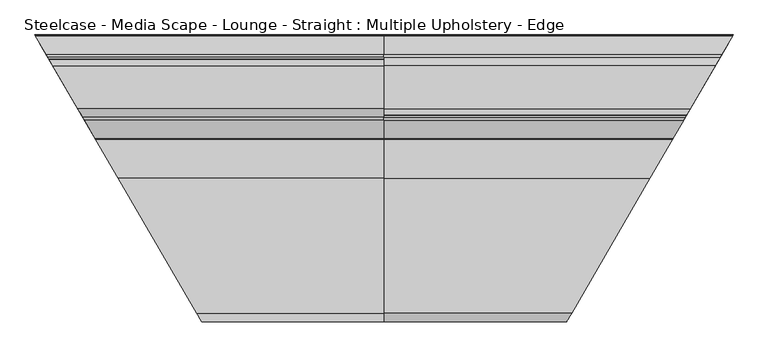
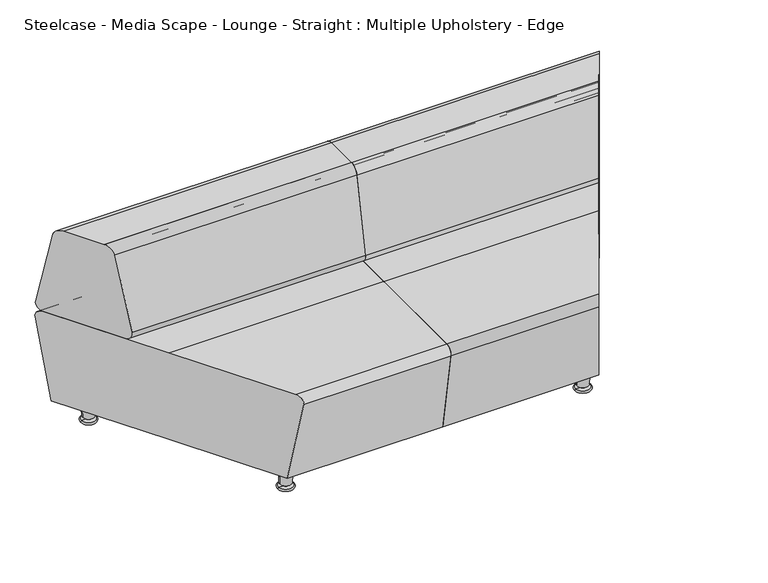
"""IFC4 building model written with IfcOpenShell, lengths in millimetres: furniture geometry, Steelcase - Media Scape - Lounge - Straight : Multiple Upholstery - Edge."""

from ifc_helpers import new_model, si_unit, point, frame, origin, place, context, project, spatial, polyline, circle_curve, ellipse_curve, trimmed, source, transform, mapped, element, save
from ifc_brep_helpers import plane_surface, cylinder_surface, revolved_surface, advanced_brep


def steelcase_media_scape_lounge_straight_multiple_upholstery_88f133c7(model_context):
    return source(origin(), model_context, "Body", "AdvancedBrep", [
        advanced_brep(
        [(528.9638527, 744.618392, 735.1171206), (528.9638527, 619.0683436, 735.1171206), (528.9638527, 585.640659, 707.6422134), (528.9638527, 531.7822003, 434.7626426), (528.9638527, 556.7014693, 404.4443065), (528.9638527, 806.9852663, 404.4443065), (528.9638527, 831.9045354, 434.7626426), (528.9638527, 778.0460766, 707.6422134), (-452.3869175, 778.0460766, 707.6422134), (-432.9507329, 744.618392, 735.1171206), (-483.7023664, 831.9045354, 434.7626426), (-469.2133128, 806.9852663, 404.4443065), (-323.688364, 556.7014693, 404.4443065), (-309.1993104, 531.7822003, 434.7626426), (-340.5147593, 585.640659, 707.6422134), (-359.950944, 619.0683436, 735.1171206)],
        [
            (0, 1),
            (1, 2, circle_curve(frame((528.9638527, 619.0683436, 701.0445646), z_axis=(1.0, 0.0, 0.0), x_axis=(0.0, -1.0, 0.0)), 34.0725559)),
            (2, 3),
            (3, 4, circle_curve(frame((528.9638527, 556.7014693, 429.8443065), z_axis=(1.0, 0.0, 0.0), x_axis=(0.0, -1.0, 0.0)), 25.4)),
            (4, 5),
            (5, 6, circle_curve(frame((528.9638527, 806.9852663, 429.8443065), z_axis=(1.0, 0.0, 0.0), x_axis=(0.0, 1.0, 0.0)), 25.4)),
            (6, 7),
            (7, 0, circle_curve(frame((528.9638527, 744.618392, 701.0445646), z_axis=(1.0, 0.0, 0.0), x_axis=(0.0, 1.0, 0.0)), 34.0725559)),
            (7, 8),
            (8, 9, ellipse_curve(frame((-432.9507329, 744.618392, 701.0445646), z_axis=(0.8644905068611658, 0.5026491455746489, 0.0), x_axis=(-0.5026491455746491, 0.8644905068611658, 0.0)), 39.413453, 34.0725559)),
            (9, 0),
            (6, 10),
            (10, 8),
            (5, 11),
            (11, 10, ellipse_curve(frame((-469.2133128, 806.9852663, 429.8443065), z_axis=(0.8644905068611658, 0.5026491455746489, 0.0), x_axis=(-0.5026491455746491, 0.8644905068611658, 0.0)), 29.3814678, 25.4)),
            (4, 12),
            (12, 11),
            (3, 13),
            (13, 12, ellipse_curve(frame((-323.688364, 556.7014693, 429.8443065), z_axis=(0.8644905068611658, 0.5026491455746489, 0.0), x_axis=(-0.502649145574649, 0.8644905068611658, 0.0)), 29.3814678, 25.4)),
            (2, 14),
            (14, 13),
            (1, 15),
            (15, 14, ellipse_curve(frame((-359.950944, 619.0683436, 701.0445646), z_axis=(0.8644905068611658, 0.5026491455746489, 0.0), x_axis=(-0.502649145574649, 0.8644905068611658, 0.0)), 39.413453, 34.0725559)),
            (9, 15),
        ],
        [
            plane_surface(frame((528.9638527, 778.690948, 701.0445646), z_axis=(1.0, 0.0, 0.0), x_axis=(0.0, 0.0, 1.0))),
            cylinder_surface(frame((528.9638527, 744.618392, 701.0445646), z_axis=(-1.0, 0.0, 0.0), x_axis=(0.0, 1.0, 0.0)), 34.0725559),
            plane_surface(frame((-497.7585178, 778.0460766, 707.6422134), z_axis=(0.0, 0.9810735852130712, 0.19363527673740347), x_axis=(1.0, 0.0, 0.0))),
            cylinder_surface(frame((528.9638527, 806.9852663, 429.8443065), z_axis=(-1.0, 0.0, 0.0), x_axis=(0.0, 1.0, 0.0)), 25.4),
            plane_surface(frame((-497.7585178, 806.9852663, 404.4443065), z_axis=(0.0, 0.0, -1.0), x_axis=(1.0, 0.0, 0.0))),
            cylinder_surface(frame((528.9638527, 556.7014693, 429.8443065), z_axis=(-1.0, 0.0, 0.0), x_axis=(0.0, -1.0, 0.0)), 25.4),
            plane_surface(frame((-497.7585178, 531.7822003, 434.7626426), z_axis=(0.0, -0.9810735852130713, 0.1936352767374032), x_axis=(1.0, 0.0, 0.0))),
            cylinder_surface(frame((528.9638527, 619.0683436, 701.0445646), z_axis=(-1.0, 0.0, 0.0), x_axis=(0.0, -1.0, 0.0)), 34.0725559),
            plane_surface(frame((-497.7585178, 619.0683436, 735.1171206), z_axis=(0.0, 0.0, 1.0), x_axis=(1.0, 0.0, 0.0))),
            plane_surface(frame((22.6450752, -38.9465548, 744.9721396), z_axis=(-0.8644905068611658, -0.5026491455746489, 0.0), x_axis=(0.0, 0.0, -1.0))),
        ],
        [
            (0, [[1, 2, 3, 4, 5, 6, 7, 8]]),
            (1, [[-8, 9, 10, 11]]),
            (2, [[-7, 12, 13, -9]]),
            (3, [[-6, 14, 15, -12]]),
            (4, [[-5, 16, 17, -14]]),
            (5, [[-4, 18, 19, -16]]),
            (6, [[-3, 20, 21, -18]]),
            (7, [[-2, 22, 23, -20]]),
            (8, [[-1, -11, 24, -22]]),
            (9, [[-10, -13, -15, -17, -19, -21, -23, -24]]),
        ],
    ),
        advanced_brep(
        [(528.9638527, 416.9525328, 404.4443065), (528.9638527, 25.4465658, 404.4443065), (528.9638527, 0.4050887, 374.7917281), (528.9638527, 51.3770305, 74.6414242), (528.9638527, 416.9525328, 74.6414242), (528.9638527, 782.5280351, 74.6414242), (528.9638527, 833.4999769, 374.7917281), (528.9638527, 808.4584998, 404.4443065), (-242.4327771, 416.9525328, 404.4443065), (-14.7956449, 25.4465658, 404.4443065), (-0.2355347, 0.4050887, 374.7917281), (-29.8726479, 51.3770305, 74.6414242), (-242.4327771, 416.9525328, 74.6414242), (-454.9929064, 782.5280351, 74.6414242), (-484.6300196, 833.4999769, 374.7917281), (-470.0699093, 808.4584998, 404.4443065)],
        [
            (0, 1),
            (1, 2, circle_curve(frame((528.9638527, 25.4465658, 379.0443065), z_axis=(1.0, 0.0, 0.0), x_axis=(0.0, -1.0, 0.0)), 25.4)),
            (2, 3),
            (3, 4),
            (4, 5),
            (5, 6),
            (6, 7, circle_curve(frame((528.9638527, 808.4584998, 379.0443065), z_axis=(1.0, 0.0, 0.0), x_axis=(0.0, 1.0, 0.0)), 25.4)),
            (7, 0),
            (0, 8),
            (8, 9),
            (9, 1),
            (9, 10, ellipse_curve(frame((-14.7956449, 25.4465658, 379.0443065), z_axis=(0.8644905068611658, 0.5026491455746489, 0.0), x_axis=(0.502649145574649, -0.8644905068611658, 0.0)), 29.3814678, 25.4)),
            (10, 2),
            (10, 11),
            (11, 3),
            (11, 12),
            (12, 4),
            (12, 13),
            (13, 5),
            (13, 14),
            (14, 6),
            (14, 15, ellipse_curve(frame((-470.0699093, 808.4584998, 379.0443065), z_axis=(0.8644905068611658, 0.5026491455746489, 0.0), x_axis=(0.502649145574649, -0.8644905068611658, 0.0)), 29.3814678, 25.4)),
            (15, 7),
            (15, 8),
        ],
        [
            plane_surface(frame((528.9638527, -57.5722485, 404.4443065), z_axis=(1.0, 0.0, 0.0), x_axis=(0.0, -1.0, 0.0))),
            plane_surface(frame((528.9638527, 416.9525328, 404.4443065), z_axis=(0.0, 0.0, 1.0), x_axis=(-1.0, 0.0, 0.0))),
            cylinder_surface(frame((-497.7585178, 25.4465658, 379.0443065), z_axis=(1.0, 0.0, 0.0), x_axis=(0.0, -1.0, 0.0)), 25.4),
            plane_surface(frame((528.9638527, 0.4050887, 374.7917281), z_axis=(0.0, -0.9858849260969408, -0.16742434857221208), x_axis=(-1.0, 0.0, 0.0))),
            plane_surface(frame((528.9638527, 51.3770305, 74.6414242), z_axis=(0.0, 0.0, -1.0), x_axis=(-1.0, 0.0, 0.0))),
            plane_surface(frame((528.9638527, 416.9525328, 74.6414242), z_axis=(0.0, 0.0, -1.0), x_axis=(-1.0, 0.0, 0.0))),
            plane_surface(frame((528.9638527, 782.5280351, 74.6414242), z_axis=(0.0, 0.9858849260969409, -0.1674243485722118), x_axis=(-1.0, 0.0, 0.0))),
            cylinder_surface(frame((-497.7585178, 808.4584998, 379.0443065), z_axis=(1.0, 0.0, 0.0), x_axis=(0.0, 1.0, 0.0)), 25.4),
            plane_surface(frame((528.9638527, 808.4584998, 404.4443065), z_axis=(0.0, 0.0, 1.0), x_axis=(-1.0, 0.0, 0.0))),
            plane_surface(frame((22.6450752, -38.9465548, 744.9721396), z_axis=(-0.8644905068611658, -0.5026491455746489, 0.0), x_axis=(0.0, 0.0, -1.0))),
        ],
        [
            (0, [[1, 2, 3, 4, 5, 6, 7, 8]]),
            (1, [[-1, 9, 10, 11]]),
            (2, [[-2, -11, 12, 13]]),
            (3, [[-3, -13, 14, 15]]),
            (4, [[-4, -15, 16, 17]]),
            (5, [[-5, -17, 18, 19]]),
            (6, [[-6, -19, 20, 21]]),
            (7, [[-7, -21, 22, 23]]),
            (8, [[-8, -23, 24, -9]]),
            (9, [[-10, -24, -22, -20, -18, -16, -14, -12]]),
        ],
    ),
        advanced_brep(
        [(528.9638527, 416.9525328, 404.4443065), (528.9638527, 808.4584998, 404.4443065), (528.9638527, 833.4999769, 374.7917281), (528.9638527, 782.5280351, 74.6414242), (528.9638527, 416.9525328, 74.6414242), (528.9638527, 51.3770305, 74.6414242), (528.9638527, 0.4050887, 374.7917281), (528.9638527, 25.4465658, 404.4443065), (1301.6333208, 416.9525328, 404.4443065), (1528.798605, 808.4584998, 404.4443065), (1543.328535, 833.4999769, 374.7917281), (1513.7528538, 782.5280351, 74.6414242), (1301.6333208, 416.9525328, 74.6414242), (1089.5137878, 51.3770305, 74.6414242), (1059.9381066, 0.4050887, 374.7917281), (1074.4680366, 25.4465658, 404.4443065)],
        [
            (0, 1),
            (1, 2, circle_curve(frame((528.9638527, 808.4584998, 379.0443065), z_axis=(-1.0, 0.0, 0.0), x_axis=(0.0, 1.0, 0.0)), 25.4)),
            (2, 3),
            (3, 4),
            (4, 5),
            (5, 6),
            (6, 7, circle_curve(frame((528.9638527, 25.4465658, 379.0443065), z_axis=(-1.0, 0.0, 0.0), x_axis=(0.0, -1.0, 0.0)), 25.4)),
            (7, 0),
            (0, 8),
            (8, 9),
            (9, 1),
            (9, 10, ellipse_curve(frame((1528.798605, 808.4584998, 379.0443065), z_axis=(-0.8649431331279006, 0.5018698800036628, 0.0), x_axis=(-0.5018698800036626, -0.8649431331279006, 0.0)), 29.3660924, 25.4)),
            (10, 2),
            (10, 11),
            (11, 3),
            (11, 12),
            (12, 4),
            (12, 13),
            (13, 5),
            (13, 14),
            (14, 6),
            (14, 15, ellipse_curve(frame((1074.4680366, 25.4465658, 379.0443065), z_axis=(-0.8649431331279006, 0.5018698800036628, 0.0), x_axis=(-0.5018698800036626, -0.8649431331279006, 0.0)), 29.3660924, 25.4)),
            (15, 7),
            (15, 8),
        ],
        [
            plane_surface(frame((528.9638527, 891.4773142, 404.4443065), z_axis=(-1.0, 0.0, 0.0), x_axis=(0.0, 1.0, 0.0))),
            plane_surface(frame((528.9638527, 416.9525328, 404.4443065), z_axis=(0.0, 0.0, 1.0), x_axis=(1.0, 0.0, 0.0))),
            cylinder_surface(frame((1555.6862231, 808.4584998, 379.0443065), z_axis=(-1.0, 0.0, 0.0), x_axis=(0.0, 1.0, 0.0)), 25.4),
            plane_surface(frame((528.9638527, 833.4999769, 374.7917281), z_axis=(0.0, 0.9858849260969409, -0.1674243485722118), x_axis=(1.0, 0.0, 0.0))),
            plane_surface(frame((528.9638527, 782.5280351, 74.6414242), z_axis=(0.0, 0.0, -1.0), x_axis=(1.0, 0.0, 0.0))),
            plane_surface(frame((528.9638527, 416.9525328, 74.6414242), z_axis=(0.0, 0.0, -1.0), x_axis=(1.0, 0.0, 0.0))),
            plane_surface(frame((528.9638527, 51.3770305, 74.6414242), z_axis=(0.0, -0.9858849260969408, -0.16742434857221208), x_axis=(1.0, 0.0, 0.0))),
            cylinder_surface(frame((1555.6862231, 25.4465658, 379.0443065), z_axis=(-1.0, 0.0, 0.0), x_axis=(0.0, -1.0, 0.0)), 25.4),
            plane_surface(frame((528.9638527, 25.4465658, 404.4443065), z_axis=(0.0, 0.0, 1.0), x_axis=(1.0, 0.0, 0.0))),
            plane_surface(frame((1544.0895768, 834.8115876, 744.9721396), z_axis=(0.8649431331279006, -0.5018698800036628, 0.0), x_axis=(0.0, 0.0, -1.0))),
        ],
        [
            (0, [[1, 2, 3, 4, 5, 6, 7, 8]]),
            (1, [[-1, 9, 10, 11]]),
            (2, [[-2, -11, 12, 13]]),
            (3, [[-3, -13, 14, 15]]),
            (4, [[-4, -15, 16, 17]]),
            (5, [[-5, -17, 18, 19]]),
            (6, [[-6, -19, 20, 21]]),
            (7, [[-7, -21, 22, 23]]),
            (8, [[-8, -23, 24, -9]]),
            (9, [[-10, -24, -22, -20, -18, -16, -14, -12]]),
        ],
    ),
        advanced_brep(
        [(528.9638527, 744.618392, 735.1171206), (528.9638527, 778.0460766, 707.6422134), (528.9638527, 831.9045354, 434.7626426), (528.9638527, 806.9852663, 404.4443065), (528.9638527, 556.7014693, 404.4443065), (528.9638527, 531.7822003, 434.7626426), (528.9638527, 585.640659, 707.6422134), (528.9638527, 619.0683436, 735.1171206), (1418.9078951, 619.0683436, 735.1171206), (1491.7563695, 744.618392, 735.1171206), (1399.5119979, 585.640659, 707.6422134), (1368.26146, 531.7822003, 434.7626426), (1382.7204806, 556.7014693, 404.4443065), (1527.9437841, 806.9852663, 404.4443065), (1542.4028047, 831.9045354, 434.7626426), (1511.1522667, 778.0460766, 707.6422134)],
        [
            (0, 1, circle_curve(frame((528.9638527, 744.618392, 701.0445646), z_axis=(-1.0, 0.0, 0.0), x_axis=(0.0, 1.0, 0.0)), 34.0725559)),
            (1, 2),
            (2, 3, circle_curve(frame((528.9638527, 806.9852663, 429.8443065), z_axis=(-1.0, 0.0, 0.0), x_axis=(0.0, 1.0, 0.0)), 25.4)),
            (3, 4),
            (4, 5, circle_curve(frame((528.9638527, 556.7014693, 429.8443065), z_axis=(-1.0, 0.0, 0.0), x_axis=(0.0, -1.0, 0.0)), 25.4)),
            (5, 6),
            (6, 7, circle_curve(frame((528.9638527, 619.0683436, 701.0445646), z_axis=(-1.0, 0.0, 0.0), x_axis=(0.0, -1.0, 0.0)), 34.0725559)),
            (7, 0),
            (7, 8),
            (8, 9),
            (9, 0),
            (6, 10),
            (10, 8, ellipse_curve(frame((1418.9078951, 619.0683436, 701.0445646), z_axis=(-0.8649431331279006, 0.5018698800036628, 0.0), x_axis=(0.5018698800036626, 0.8649431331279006, 0.0)), 39.3928279, 34.0725559)),
            (5, 11),
            (11, 10),
            (4, 12),
            (12, 11, ellipse_curve(frame((1382.7204806, 556.7014693, 429.8443065), z_axis=(-0.8649431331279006, 0.5018698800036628, 0.0), x_axis=(0.5018698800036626, 0.8649431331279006, 0.0)), 29.3660924, 25.4)),
            (3, 13),
            (13, 12),
            (2, 14),
            (14, 13, ellipse_curve(frame((1527.9437841, 806.9852663, 429.8443065), z_axis=(-0.8649431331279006, 0.5018698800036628, 0.0), x_axis=(0.5018698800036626, 0.8649431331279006, 0.0)), 29.3660924, 25.4)),
            (1, 15),
            (15, 14),
            (9, 15, ellipse_curve(frame((1491.7563695, 744.618392, 701.0445646), z_axis=(-0.8649431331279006, 0.5018698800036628, 0.0), x_axis=(0.5018698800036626, 0.8649431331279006, 0.0)), 39.3928279, 34.0725559)),
        ],
        [
            plane_surface(frame((528.9638527, 567.2050656, 735.1171206), z_axis=(-1.0, 0.0, 0.0), x_axis=(0.0, 1.0, 0.0))),
            plane_surface(frame((1555.6862231, 744.618392, 735.1171206), z_axis=(0.0, 0.0, 1.0), x_axis=(-1.0, 0.0, 0.0))),
            cylinder_surface(frame((528.9638527, 619.0683436, 701.0445646), z_axis=(1.0, 0.0, 0.0), x_axis=(0.0, -1.0, 0.0)), 34.0725559),
            plane_surface(frame((1555.6862231, 585.640659, 707.6422134), z_axis=(0.0, -0.9810735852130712, 0.19363527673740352), x_axis=(-1.0, 0.0, 0.0))),
            cylinder_surface(frame((528.9638527, 556.7014693, 429.8443065), z_axis=(1.0, 0.0, 0.0), x_axis=(0.0, -1.0, 0.0)), 25.4),
            plane_surface(frame((1555.6862231, 556.7014693, 404.4443065), z_axis=(0.0, 0.0, -1.0), x_axis=(-1.0, 0.0, 0.0))),
            cylinder_surface(frame((528.9638527, 806.9852663, 429.8443065), z_axis=(1.0, 0.0, 0.0), x_axis=(0.0, 1.0, 0.0)), 25.4),
            plane_surface(frame((1555.6862231, 831.9045354, 434.7626426), z_axis=(0.0, 0.9810735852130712, 0.19363527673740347), x_axis=(-1.0, 0.0, 0.0))),
            cylinder_surface(frame((528.9638527, 744.618392, 701.0445646), z_axis=(1.0, 0.0, 0.0), x_axis=(0.0, 1.0, 0.0)), 34.0725559),
            plane_surface(frame((1544.0895768, 834.8115876, 744.9721396), z_axis=(0.8649431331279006, -0.5018698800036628, 0.0), x_axis=(0.0, 0.0, -1.0))),
        ],
        [
            (0, [[1, 2, 3, 4, 5, 6, 7, 8]]),
            (1, [[-8, 9, 10, 11]]),
            (2, [[-7, 12, 13, -9]]),
            (3, [[-6, 14, 15, -12]]),
            (4, [[-5, 16, 17, -14]]),
            (5, [[-4, 18, 19, -16]]),
            (6, [[-3, 20, 21, -18]]),
            (7, [[-2, 22, 23, -20]]),
            (8, [[-1, -11, 24, -22]]),
            (9, [[-10, -13, -15, -17, -19, -21, -23, -24]]),
        ],
    ),
        advanced_brep(
        [(528.9638527, 744.8271599, 735.3711206), (528.9638527, 778.2548445, 707.8962134), (528.9638527, 585.4318912, 707.8962134), (528.9638527, 618.8595758, 735.3711206), (1418.7867608, 618.8595758, 735.3711206), (1491.8775039, 744.8271599, 735.3711206), (1399.3908636, 585.4318912, 707.8962134), (1511.273401, 778.2548445, 707.8962134)],
        [
            (0, 1, circle_curve(frame((528.9638527, 744.8271599, 701.2985646), z_axis=(-1.0, 0.0, 0.0), x_axis=(0.0, 1.0, 0.0)), 34.0725559)),
            (1, 2),
            (2, 3, circle_curve(frame((528.9638527, 618.8595758, 701.2985646), z_axis=(-1.0, 0.0, 0.0), x_axis=(0.0, -1.0, 0.0)), 34.0725559)),
            (3, 0),
            (3, 4),
            (4, 5),
            (5, 0),
            (2, 6),
            (6, 4, ellipse_curve(frame((1418.7867608, 618.8595758, 701.2985646), z_axis=(-0.8649431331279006, 0.5018698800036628, 0.0), x_axis=(0.5018698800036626, 0.8649431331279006, 0.0)), 39.3928279, 34.0725559)),
            (1, 7),
            (7, 6),
            (5, 7, ellipse_curve(frame((1491.8775039, 744.8271599, 701.2985646), z_axis=(-0.8649431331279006, 0.5018698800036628, 0.0), x_axis=(0.5018698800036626, 0.8649431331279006, 0.0)), 39.3928279, 34.0725559)),
        ],
        [
            plane_surface(frame((528.9638527, 567.2050656, 735.3711206), z_axis=(-1.0, 0.0, 0.0), x_axis=(0.0, 1.0, 0.0))),
            plane_surface(frame((1555.6862231, 744.8271599, 735.3711206), z_axis=(0.0, 0.0, 1.0), x_axis=(-1.0, 0.0, 0.0))),
            cylinder_surface(frame((528.9638527, 618.8595758, 701.2985646), z_axis=(1.0, 0.0, 0.0), x_axis=(0.0, -1.0, 0.0)), 34.0725559),
            plane_surface(frame((1555.6862231, 585.4318912, 707.8962134), z_axis=(0.0, 0.0, -1.0), x_axis=(-1.0, 0.0, 0.0))),
            cylinder_surface(frame((528.9638527, 744.8271599, 701.2985646), z_axis=(1.0, 0.0, 0.0), x_axis=(0.0, 1.0, 0.0)), 34.0725559),
            plane_surface(frame((1544.0895768, 834.8115876, 1808.8293217), z_axis=(0.8649431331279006, -0.5018698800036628, 0.0), x_axis=(0.0, 0.0, -1.0))),
        ],
        [
            (0, [[1, 2, 3, 4]]),
            (1, [[-4, 5, 6, 7]]),
            (2, [[-3, 8, 9, -5]]),
            (3, [[-2, 10, 11, -8]]),
            (4, [[-1, -7, 12, -10]]),
            (5, [[-6, -9, -11, -12]]),
        ],
    ),
        advanced_brep(
        [(528.9638527, 744.8271599, 735.3711206), (528.9638527, 618.8595758, 735.3711206), (528.9638527, 585.4318912, 707.8962134), (528.9638527, 778.2548445, 707.8962134), (-452.5083035, 778.2548445, 707.8962134), (-433.0721188, 744.8271599, 735.3711206), (-340.3933734, 585.4318912, 707.8962134), (-359.829558, 618.8595758, 735.3711206)],
        [
            (0, 1),
            (1, 2, circle_curve(frame((528.9638527, 618.8595758, 701.2985646), z_axis=(1.0, 0.0, 0.0), x_axis=(0.0, -1.0, 0.0)), 34.0725559)),
            (2, 3),
            (3, 0, circle_curve(frame((528.9638527, 744.8271599, 701.2985646), z_axis=(1.0, 0.0, 0.0), x_axis=(0.0, 1.0, 0.0)), 34.0725559)),
            (3, 4),
            (4, 5, ellipse_curve(frame((-433.0721188, 744.8271599, 701.2985646), z_axis=(0.8644905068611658, 0.5026491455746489, 0.0), x_axis=(-0.5026491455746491, 0.8644905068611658, 0.0)), 39.413453, 34.0725559)),
            (5, 0),
            (2, 6),
            (6, 4),
            (1, 7),
            (7, 6, ellipse_curve(frame((-359.829558, 618.8595758, 701.2985646), z_axis=(0.8644905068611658, 0.5026491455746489, 0.0), x_axis=(-0.502649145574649, 0.8644905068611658, 0.0)), 39.413453, 34.0725559)),
            (5, 7),
        ],
        [
            plane_surface(frame((528.9638527, 778.8997158, 701.2985646), z_axis=(1.0, 0.0, 0.0), x_axis=(0.0, 0.0, 1.0))),
            cylinder_surface(frame((528.9638527, 744.8271599, 701.2985646), z_axis=(-1.0, 0.0, 0.0), x_axis=(0.0, 1.0, 0.0)), 34.0725559),
            plane_surface(frame((-497.7585178, 778.2548445, 707.8962134), z_axis=(0.0, 0.0, -1.0), x_axis=(1.0, 0.0, 0.0))),
            cylinder_surface(frame((528.9638527, 618.8595758, 701.2985646), z_axis=(-1.0, 0.0, 0.0), x_axis=(0.0, -1.0, 0.0)), 34.0725559),
            plane_surface(frame((-497.7585178, 618.8595758, 735.3711206), z_axis=(0.0, 0.0, 1.0), x_axis=(1.0, 0.0, 0.0))),
            plane_surface(frame((22.6450752, -38.9465548, 1808.8293217), z_axis=(-0.8644905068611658, -0.5026491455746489, 0.0), x_axis=(0.0, 0.0, -1.0))),
        ],
        [
            (0, [[1, 2, 3, 4]]),
            (1, [[-4, 5, 6, 7]]),
            (2, [[-3, 8, 9, -5]]),
            (3, [[-2, 10, 11, -8]]),
            (4, [[-1, -7, 12, -10]]),
            (5, [[-6, -9, -11, -12]]),
        ],
    ),
        advanced_brep(
        [(1415.6593492, 727.0057274, 74.1561731), (1439.4462694, 727.0057274, 74.1561731), (1391.8724291, 727.0057274, 74.1561731), (1389.605707, 727.0057274, 0.0), (1441.7129915, 727.0057274, 0.0), (1415.6593492, 727.0057274, 0.0), (1389.605707, 727.0057274, 6.3788302), (1441.7129915, 727.0057274, 6.3788302), (1406.1343492, 727.0057274, 6.3788302), (1425.1843492, 727.0057274, 6.3788302), (1406.1343492, 727.0057274, 17.057519), (1425.1843492, 727.0057274, 17.057519), (1394.704233, 727.0057274, 17.057519), (1436.6144655, 727.0057274, 17.057519)],
        [
            (0, 1),
            (1, 2, circle_curve(frame((1415.6593492, 727.0057274, 74.1561731), z_axis=(0.0, 0.0, 1.0), x_axis=(1.0, 0.0, 0.0)), 23.7869202)),
            (2, 0),
            (2, 1, circle_curve(frame((1415.6593492, 727.0057274, 74.1561731), z_axis=(0.0, 0.0, 1.0), x_axis=(1.0, 0.0, 0.0)), 23.7869202)),
            (3, 4, circle_curve(frame((1415.6593492, 727.0057274, 0.0), z_axis=(0.0, 0.0, -1.0), x_axis=(1.0, 0.0, 0.0)), 26.0536423)),
            (4, 5),
            (5, 3),
            (4, 3, circle_curve(frame((1415.6593492, 727.0057274, 0.0), z_axis=(0.0, 0.0, -1.0), x_axis=(1.0, 0.0, 0.0)), 26.0536423)),
            (3, 6, circle_curve(frame((1389.605707, 727.0057274, 3.1894151), z_axis=(0.0, 1.0, 0.0), x_axis=(-1.0, 0.0, 0.0)), 3.1894151)),
            (6, 7, circle_curve(frame((1415.6593492, 727.0057274, 6.3788302), z_axis=(0.0, 0.0, -1.0), x_axis=(1.0, 0.0, 0.0)), 26.0536423)),
            (7, 4, circle_curve(frame((1441.7129915, 727.0057274, 3.1894151), z_axis=(0.0, 1.0, 0.0), x_axis=(1.0, 0.0, 0.0)), 3.1894151)),
            (7, 6, circle_curve(frame((1415.6593492, 727.0057274, 6.3788302), z_axis=(0.0, 0.0, -1.0), x_axis=(1.0, 0.0, 0.0)), 26.0536423)),
            (6, 8),
            (8, 9, circle_curve(frame((1415.6593492, 727.0057274, 6.3788302), z_axis=(0.0, 0.0, -1.0), x_axis=(1.0, 0.0, 0.0)), 9.525)),
            (9, 7),
            (9, 8, circle_curve(frame((1415.6593492, 727.0057274, 6.3788302), z_axis=(0.0, 0.0, -1.0), x_axis=(1.0, 0.0, 0.0)), 9.525)),
            (8, 10),
            (10, 11, circle_curve(frame((1415.6593492, 727.0057274, 17.057519), z_axis=(0.0, 0.0, -1.0), x_axis=(1.0, 0.0, 0.0)), 9.525)),
            (11, 9),
            (11, 10, circle_curve(frame((1415.6593492, 727.0057274, 17.057519), z_axis=(0.0, 0.0, -1.0), x_axis=(1.0, 0.0, 0.0)), 9.525)),
            (10, 12),
            (12, 13, circle_curve(frame((1415.6593492, 727.0057274, 17.057519), z_axis=(0.0, 0.0, -1.0), x_axis=(1.0, 0.0, 0.0)), 20.9551163)),
            (13, 11),
            (13, 12, circle_curve(frame((1415.6593492, 727.0057274, 17.057519), z_axis=(0.0, 0.0, -1.0), x_axis=(1.0, 0.0, 0.0)), 20.9551163)),
            (1, 13),
            (12, 2),
        ],
        [
            plane_surface(frame((1415.6593492, 727.0057274, 74.1561731), z_axis=(0.0, 0.0, 1.0), x_axis=(1.0, 0.0, 0.0))),
            plane_surface(frame((1415.6593492, 727.0057274, 0.0), z_axis=(0.0, 0.0, -1.0), x_axis=(1.0, 0.0, 0.0))),
            revolved_surface(trimmed(ellipse_curve(frame((1441.7129915, 727.0057274, 3.1894151), z_axis=(0.0, -1.0, 0.0), x_axis=(1.0, 0.0, 0.0)), 3.1894151, 3.1894151), [point((1441.7129915, 727.0057274, 0.0))], [point((1441.7129915, 727.0057274, 6.3788302))], True, "CARTESIAN"), (1415.6593492, 727.0057274, 61.4561731), (0.0, 0.0, 1.0)),
            plane_surface(frame((1415.6593492, 727.0057274, 6.3788302), z_axis=(0.0, 0.0, 1.0), x_axis=(1.0, 0.0, 0.0))),
            cylinder_surface(frame((1415.6593492, 727.0057274, 61.4561731), z_axis=(0.0, 0.0, 1.0), x_axis=(1.0, 0.0, 0.0)), 9.525),
            plane_surface(frame((1415.6593492, 727.0057274, 17.057519), z_axis=(0.0, 0.0, -1.0), x_axis=(1.0, 0.0, 0.0))),
            revolved_surface(polyline([(1436.6144655, 727.0057274, 17.057519), (1439.4462694, 727.0057274, 74.1561731)]), (1415.6593492, 727.0057274, 61.4561731), (0.0, 0.0, 1.0)),
        ],
        [
            (0, [[1, 2, 3]]),
            (0, [[-1, -3, 4]]),
            (1, [[5, 6, 7]]),
            (1, [[-6, 8, -7]]),
            (2, [[-5, 9, 10, 11]]),
            (2, [[-8, -11, 12, -9]]),
            (3, [[-10, 13, 14, 15]]),
            (3, [[-12, -15, 16, -13]]),
            (4, [[-14, 17, 18, 19]]),
            (4, [[-16, -19, 20, -17]]),
            (5, [[-18, 21, 22, 23]]),
            (5, [[-20, -23, 24, -21]]),
            (6, [[-2, 25, -22, 26]]),
            (6, [[-4, -26, -24, -25]]),
        ],
    ),
        advanced_brep(
        [(1064.6697268, 106.8143681, 74.1561731), (1088.4566469, 106.8143681, 74.1561731), (1040.8828066, 106.8143681, 74.1561731), (1038.6160845, 106.8143681, 0.0), (1090.723369, 106.8143681, 0.0), (1064.6697268, 106.8143681, 0.0), (1038.6160845, 106.8143681, 6.3788302), (1090.723369, 106.8143681, 6.3788302), (1055.1447268, 106.8143681, 6.3788302), (1074.1947268, 106.8143681, 6.3788302), (1055.1447268, 106.8143681, 17.057519), (1074.1947268, 106.8143681, 17.057519), (1043.7146105, 106.8143681, 17.057519), (1085.624843, 106.8143681, 17.057519)],
        [
            (0, 1),
            (1, 2, circle_curve(frame((1064.6697268, 106.8143681, 74.1561731), z_axis=(0.0, 0.0, 1.0), x_axis=(1.0, 0.0, 0.0)), 23.7869202)),
            (2, 0),
            (2, 1, circle_curve(frame((1064.6697268, 106.8143681, 74.1561731), z_axis=(0.0, 0.0, 1.0), x_axis=(1.0, 0.0, 0.0)), 23.7869202)),
            (3, 4, circle_curve(frame((1064.6697268, 106.8143681, 0.0), z_axis=(0.0, 0.0, -1.0), x_axis=(1.0, 0.0, 0.0)), 26.0536423)),
            (4, 5),
            (5, 3),
            (4, 3, circle_curve(frame((1064.6697268, 106.8143681, 0.0), z_axis=(0.0, 0.0, -1.0), x_axis=(1.0, 0.0, 0.0)), 26.0536423)),
            (3, 6, circle_curve(frame((1038.6160845, 106.8143681, 3.1894151), z_axis=(0.0, 1.0, 0.0), x_axis=(-1.0, 0.0, 0.0)), 3.1894151)),
            (6, 7, circle_curve(frame((1064.6697268, 106.8143681, 6.3788302), z_axis=(0.0, 0.0, -1.0), x_axis=(1.0, 0.0, 0.0)), 26.0536423)),
            (7, 4, circle_curve(frame((1090.723369, 106.8143681, 3.1894151), z_axis=(0.0, 1.0, 0.0), x_axis=(1.0, 0.0, 0.0)), 3.1894151)),
            (7, 6, circle_curve(frame((1064.6697268, 106.8143681, 6.3788302), z_axis=(0.0, 0.0, -1.0), x_axis=(1.0, 0.0, 0.0)), 26.0536423)),
            (6, 8),
            (8, 9, circle_curve(frame((1064.6697268, 106.8143681, 6.3788302), z_axis=(0.0, 0.0, -1.0), x_axis=(1.0, 0.0, 0.0)), 9.525)),
            (9, 7),
            (9, 8, circle_curve(frame((1064.6697268, 106.8143681, 6.3788302), z_axis=(0.0, 0.0, -1.0), x_axis=(1.0, 0.0, 0.0)), 9.525)),
            (8, 10),
            (10, 11, circle_curve(frame((1064.6697268, 106.8143681, 17.057519), z_axis=(0.0, 0.0, -1.0), x_axis=(1.0, 0.0, 0.0)), 9.525)),
            (11, 9),
            (11, 10, circle_curve(frame((1064.6697268, 106.8143681, 17.057519), z_axis=(0.0, 0.0, -1.0), x_axis=(1.0, 0.0, 0.0)), 9.525)),
            (10, 12),
            (12, 13, circle_curve(frame((1064.6697268, 106.8143681, 17.057519), z_axis=(0.0, 0.0, -1.0), x_axis=(1.0, 0.0, 0.0)), 20.9551163)),
            (13, 11),
            (13, 12, circle_curve(frame((1064.6697268, 106.8143681, 17.057519), z_axis=(0.0, 0.0, -1.0), x_axis=(1.0, 0.0, 0.0)), 20.9551163)),
            (1, 13),
            (12, 2),
        ],
        [
            plane_surface(frame((1064.6697268, 106.8143681, 74.1561731), z_axis=(0.0, 0.0, 1.0), x_axis=(1.0, 0.0, 0.0))),
            plane_surface(frame((1064.6697268, 106.8143681, 0.0), z_axis=(0.0, 0.0, -1.0), x_axis=(1.0, 0.0, 0.0))),
            revolved_surface(trimmed(ellipse_curve(frame((1090.723369, 106.8143681, 3.1894151), z_axis=(0.0, -1.0, 0.0), x_axis=(1.0, 0.0, 0.0)), 3.1894151, 3.1894151), [point((1090.723369, 106.8143681, 0.0))], [point((1090.723369, 106.8143681, 6.3788302))], True, "CARTESIAN"), (1064.6697268, 106.8143681, 61.4561731), (0.0, 0.0, 1.0)),
            plane_surface(frame((1064.6697268, 106.8143681, 6.3788302), z_axis=(0.0, 0.0, 1.0), x_axis=(1.0, 0.0, 0.0))),
            cylinder_surface(frame((1064.6697268, 106.8143681, 61.4561731), z_axis=(0.0, 0.0, 1.0), x_axis=(1.0, 0.0, 0.0)), 9.525),
            plane_surface(frame((1064.6697268, 106.8143681, 17.057519), z_axis=(0.0, 0.0, -1.0), x_axis=(1.0, 0.0, 0.0))),
            revolved_surface(polyline([(1085.624843, 106.8143681, 17.057519), (1088.4566469, 106.8143681, 74.1561731)]), (1064.6697268, 106.8143681, 61.4561731), (0.0, 0.0, 1.0)),
        ],
        [
            (0, [[1, 2, 3]]),
            (0, [[-1, -3, 4]]),
            (1, [[5, 6, 7]]),
            (1, [[-6, 8, -7]]),
            (2, [[-5, 9, 10, 11]]),
            (2, [[-8, -11, 12, -9]]),
            (3, [[-10, 13, 14, 15]]),
            (3, [[-12, -15, 16, -13]]),
            (4, [[-14, 17, 18, 19]]),
            (4, [[-16, -19, 20, -17]]),
            (5, [[-18, 21, 22, 23]]),
            (5, [[-20, -23, 24, -21]]),
            (6, [[-2, 25, -22, 26]]),
            (6, [[-4, -26, -24, -25]]),
        ],
    ),
        advanced_brep(
        [(-3.0976561, 106.8143681, 74.1561731), (20.6892641, 106.8143681, 74.1561731), (-26.8845762, 106.8143681, 74.1561731), (-29.1512983, 106.8143681, 0.0), (22.9559862, 106.8143681, 0.0), (-3.0976561, 106.8143681, 0.0), (-29.1512983, 106.8143681, 6.3788302), (22.9559862, 106.8143681, 6.3788302), (-12.6226561, 106.8143681, 6.3788302), (6.4273439, 106.8143681, 6.3788302), (-12.6226561, 106.8143681, 17.057519), (6.4273439, 106.8143681, 17.057519), (-24.0527723, 106.8143681, 17.057519), (17.8574602, 106.8143681, 17.057519)],
        [
            (0, 1),
            (1, 2, circle_curve(frame((-3.0976561, 106.8143681, 74.1561731), z_axis=(0.0, 0.0, 1.0), x_axis=(1.0, 0.0, 0.0)), 23.7869202)),
            (2, 0),
            (2, 1, circle_curve(frame((-3.0976561, 106.8143681, 74.1561731), z_axis=(0.0, 0.0, 1.0), x_axis=(1.0, 0.0, 0.0)), 23.7869202)),
            (3, 4, circle_curve(frame((-3.0976561, 106.8143681, 0.0), z_axis=(0.0, 0.0, -1.0), x_axis=(1.0, 0.0, 0.0)), 26.0536423)),
            (4, 5),
            (5, 3),
            (4, 3, circle_curve(frame((-3.0976561, 106.8143681, 0.0), z_axis=(0.0, 0.0, -1.0), x_axis=(1.0, 0.0, 0.0)), 26.0536423)),
            (3, 6, circle_curve(frame((-29.1512983, 106.8143681, 3.1894151), z_axis=(0.0, 1.0, 0.0), x_axis=(-1.0, 0.0, 0.0)), 3.1894151)),
            (6, 7, circle_curve(frame((-3.0976561, 106.8143681, 6.3788302), z_axis=(0.0, 0.0, -1.0), x_axis=(1.0, 0.0, 0.0)), 26.0536423)),
            (7, 4, circle_curve(frame((22.9559862, 106.8143681, 3.1894151), z_axis=(0.0, 1.0, 0.0), x_axis=(1.0, 0.0, 0.0)), 3.1894151)),
            (7, 6, circle_curve(frame((-3.0976561, 106.8143681, 6.3788302), z_axis=(0.0, 0.0, -1.0), x_axis=(1.0, 0.0, 0.0)), 26.0536423)),
            (6, 8),
            (8, 9, circle_curve(frame((-3.0976561, 106.8143681, 6.3788302), z_axis=(0.0, 0.0, -1.0), x_axis=(1.0, 0.0, 0.0)), 9.525)),
            (9, 7),
            (9, 8, circle_curve(frame((-3.0976561, 106.8143681, 6.3788302), z_axis=(0.0, 0.0, -1.0), x_axis=(1.0, 0.0, 0.0)), 9.525)),
            (8, 10),
            (10, 11, circle_curve(frame((-3.0976561, 106.8143681, 17.057519), z_axis=(0.0, 0.0, -1.0), x_axis=(1.0, 0.0, 0.0)), 9.525)),
            (11, 9),
            (11, 10, circle_curve(frame((-3.0976561, 106.8143681, 17.057519), z_axis=(0.0, 0.0, -1.0), x_axis=(1.0, 0.0, 0.0)), 9.525)),
            (10, 12),
            (12, 13, circle_curve(frame((-3.0976561, 106.8143681, 17.057519), z_axis=(0.0, 0.0, -1.0), x_axis=(1.0, 0.0, 0.0)), 20.9551163)),
            (13, 11),
            (13, 12, circle_curve(frame((-3.0976561, 106.8143681, 17.057519), z_axis=(0.0, 0.0, -1.0), x_axis=(1.0, 0.0, 0.0)), 20.9551163)),
            (1, 13),
            (12, 2),
        ],
        [
            plane_surface(frame((-3.0976561, 106.8143681, 74.1561731), z_axis=(0.0, 0.0, 1.0), x_axis=(1.0, 0.0, 0.0))),
            plane_surface(frame((-3.0976561, 106.8143681, 0.0), z_axis=(0.0, 0.0, -1.0), x_axis=(1.0, 0.0, 0.0))),
            revolved_surface(trimmed(ellipse_curve(frame((22.9559862, 106.8143681, 3.1894151), z_axis=(0.0, -1.0, 0.0), x_axis=(1.0, 0.0, 0.0)), 3.1894151, 3.1894151), [point((22.9559862, 106.8143681, 0.0))], [point((22.9559862, 106.8143681, 6.3788302))], True, "CARTESIAN"), (-3.0976561, 106.8143681, 61.4561731), (0.0, 0.0, 1.0)),
            plane_surface(frame((-3.0976561, 106.8143681, 6.3788302), z_axis=(0.0, 0.0, 1.0), x_axis=(1.0, 0.0, 0.0))),
            cylinder_surface(frame((-3.0976561, 106.8143681, 61.4561731), z_axis=(0.0, 0.0, 1.0), x_axis=(1.0, 0.0, 0.0)), 9.525),
            plane_surface(frame((-3.0976561, 106.8143681, 17.057519), z_axis=(0.0, 0.0, -1.0), x_axis=(1.0, 0.0, 0.0))),
            revolved_surface(polyline([(17.8574602, 106.8143681, 17.057519), (20.6892641, 106.8143681, 74.1561731)]), (-3.0976561, 106.8143681, 61.4561731), (0.0, 0.0, 1.0)),
        ],
        [
            (0, [[1, 2, 3]]),
            (0, [[-1, -3, 4]]),
            (1, [[5, 6, 7]]),
            (1, [[-6, 8, -7]]),
            (2, [[-5, 9, 10, 11]]),
            (2, [[-8, -11, 12, -9]]),
            (3, [[-10, 13, 14, 15]]),
            (3, [[-12, -15, 16, -13]]),
            (4, [[-14, 17, 18, 19]]),
            (4, [[-16, -19, 20, -17]]),
            (5, [[-18, 21, 22, 23]]),
            (5, [[-20, -23, 24, -21]]),
            (6, [[-2, 25, -22, 26]]),
            (6, [[-4, -26, -24, -25]]),
        ],
    ),
        advanced_brep(
        [(-353.6250975, 727.0057274, 74.1561731), (-329.8381773, 727.0057274, 74.1561731), (-377.4120176, 727.0057274, 74.1561731), (-379.6787397, 727.0057274, 0.0), (-327.5714552, 727.0057274, 0.0), (-353.6250975, 727.0057274, 0.0), (-379.6787397, 727.0057274, 6.3788302), (-327.5714552, 727.0057274, 6.3788302), (-363.1500975, 727.0057274, 6.3788302), (-344.1000975, 727.0057274, 6.3788302), (-363.1500975, 727.0057274, 17.057519), (-344.1000975, 727.0057274, 17.057519), (-374.5802137, 727.0057274, 17.057519), (-332.6699812, 727.0057274, 17.057519)],
        [
            (0, 1),
            (1, 2, circle_curve(frame((-353.6250975, 727.0057274, 74.1561731), z_axis=(0.0, 0.0, 1.0), x_axis=(1.0, 0.0, 0.0)), 23.7869202)),
            (2, 0),
            (2, 1, circle_curve(frame((-353.6250975, 727.0057274, 74.1561731), z_axis=(0.0, 0.0, 1.0), x_axis=(1.0, 0.0, 0.0)), 23.7869202)),
            (3, 4, circle_curve(frame((-353.6250975, 727.0057274, 0.0), z_axis=(0.0, 0.0, -1.0), x_axis=(1.0, 0.0, 0.0)), 26.0536423)),
            (4, 5),
            (5, 3),
            (4, 3, circle_curve(frame((-353.6250975, 727.0057274, 0.0), z_axis=(0.0, 0.0, -1.0), x_axis=(1.0, 0.0, 0.0)), 26.0536423)),
            (3, 6, circle_curve(frame((-379.6787397, 727.0057274, 3.1894151), z_axis=(0.0, 1.0, 0.0), x_axis=(-1.0, 0.0, 0.0)), 3.1894151)),
            (6, 7, circle_curve(frame((-353.6250975, 727.0057274, 6.3788302), z_axis=(0.0, 0.0, -1.0), x_axis=(1.0, 0.0, 0.0)), 26.0536423)),
            (7, 4, circle_curve(frame((-327.5714552, 727.0057274, 3.1894151), z_axis=(0.0, 1.0, 0.0), x_axis=(1.0, 0.0, 0.0)), 3.1894151)),
            (7, 6, circle_curve(frame((-353.6250975, 727.0057274, 6.3788302), z_axis=(0.0, 0.0, -1.0), x_axis=(1.0, 0.0, 0.0)), 26.0536423)),
            (6, 8),
            (8, 9, circle_curve(frame((-353.6250975, 727.0057274, 6.3788302), z_axis=(0.0, 0.0, -1.0), x_axis=(1.0, 0.0, 0.0)), 9.525)),
            (9, 7),
            (9, 8, circle_curve(frame((-353.6250975, 727.0057274, 6.3788302), z_axis=(0.0, 0.0, -1.0), x_axis=(1.0, 0.0, 0.0)), 9.525)),
            (8, 10),
            (10, 11, circle_curve(frame((-353.6250975, 727.0057274, 17.057519), z_axis=(0.0, 0.0, -1.0), x_axis=(1.0, 0.0, 0.0)), 9.525)),
            (11, 9),
            (11, 10, circle_curve(frame((-353.6250975, 727.0057274, 17.057519), z_axis=(0.0, 0.0, -1.0), x_axis=(1.0, 0.0, 0.0)), 9.525)),
            (10, 12),
            (12, 13, circle_curve(frame((-353.6250975, 727.0057274, 17.057519), z_axis=(0.0, 0.0, -1.0), x_axis=(1.0, 0.0, 0.0)), 20.9551163)),
            (13, 11),
            (13, 12, circle_curve(frame((-353.6250975, 727.0057274, 17.057519), z_axis=(0.0, 0.0, -1.0), x_axis=(1.0, 0.0, 0.0)), 20.9551163)),
            (1, 13),
            (12, 2),
        ],
        [
            plane_surface(frame((-353.6250975, 727.0057274, 74.1561731), z_axis=(0.0, 0.0, 1.0), x_axis=(1.0, 0.0, 0.0))),
            plane_surface(frame((-353.6250975, 727.0057274, 0.0), z_axis=(0.0, 0.0, -1.0), x_axis=(1.0, 0.0, 0.0))),
            revolved_surface(trimmed(ellipse_curve(frame((-327.5714552, 727.0057274, 3.1894151), z_axis=(0.0, -1.0, 0.0), x_axis=(1.0, 0.0, 0.0)), 3.1894151, 3.1894151), [point((-327.5714552, 727.0057274, 0.0))], [point((-327.5714552, 727.0057274, 6.3788302))], True, "CARTESIAN"), (-353.6250975, 727.0057274, 61.4561731), (0.0, 0.0, 1.0)),
            plane_surface(frame((-353.6250975, 727.0057274, 6.3788302), z_axis=(0.0, 0.0, 1.0), x_axis=(1.0, 0.0, 0.0))),
            cylinder_surface(frame((-353.6250975, 727.0057274, 61.4561731), z_axis=(0.0, 0.0, 1.0), x_axis=(1.0, 0.0, 0.0)), 9.525),
            plane_surface(frame((-353.6250975, 727.0057274, 17.057519), z_axis=(0.0, 0.0, -1.0), x_axis=(1.0, 0.0, 0.0))),
            revolved_surface(polyline([(-332.6699812, 727.0057274, 17.057519), (-329.8381773, 727.0057274, 74.1561731)]), (-353.6250975, 727.0057274, 61.4561731), (0.0, 0.0, 1.0)),
        ],
        [
            (0, [[1, 2, 3]]),
            (0, [[-1, -3, 4]]),
            (1, [[5, 6, 7]]),
            (1, [[-6, 8, -7]]),
            (2, [[-5, 9, 10, 11]]),
            (2, [[-8, -11, 12, -9]]),
            (3, [[-10, 13, 14, 15]]),
            (3, [[-12, -15, 16, -13]]),
            (4, [[-14, 17, 18, 19]]),
            (4, [[-16, -19, 20, -17]]),
            (5, [[-18, 21, 22, 23]]),
            (5, [[-20, -23, 24, -21]]),
            (6, [[-2, 25, -22, 26]]),
            (6, [[-4, -26, -24, -25]]),
        ],
    ),
    ])


if __name__ == "__main__":
    model = new_model("IFC4")
    model_context = context("Model", 3, world=origin())
    ifc_project = project(units=[si_unit("LENGTHUNIT", "METRE", prefix="MILLI")], contexts=[model_context])
    site = spatial("IfcSite", under=ifc_project)
    building = spatial("IfcBuilding", under=site)
    placement = place(None, origin())
    steelcase_media_scape_lounge_straight_multiple_upholstery_shape = steelcase_media_scape_lounge_straight_multiple_upholstery_88f133c7(model_context)
    element("IfcFurniture", 1, ObjectType="Steelcase - Media Scape - Lounge - Straight : Multiple Upholstery - Edge", at=placement, inside=building, context=model_context, shape_type="MappedRepresentation", body=[
        mapped(steelcase_media_scape_lounge_straight_multiple_upholstery_shape, transform((0.0, 0.0, 0.0), x_axis=(1.0, 0.0, 0.0), y_axis=(0.0, 1.0, 0.0), z_axis=(0.0, 0.0, 1.0))),
    ])
    save(model, "model.ifc")
